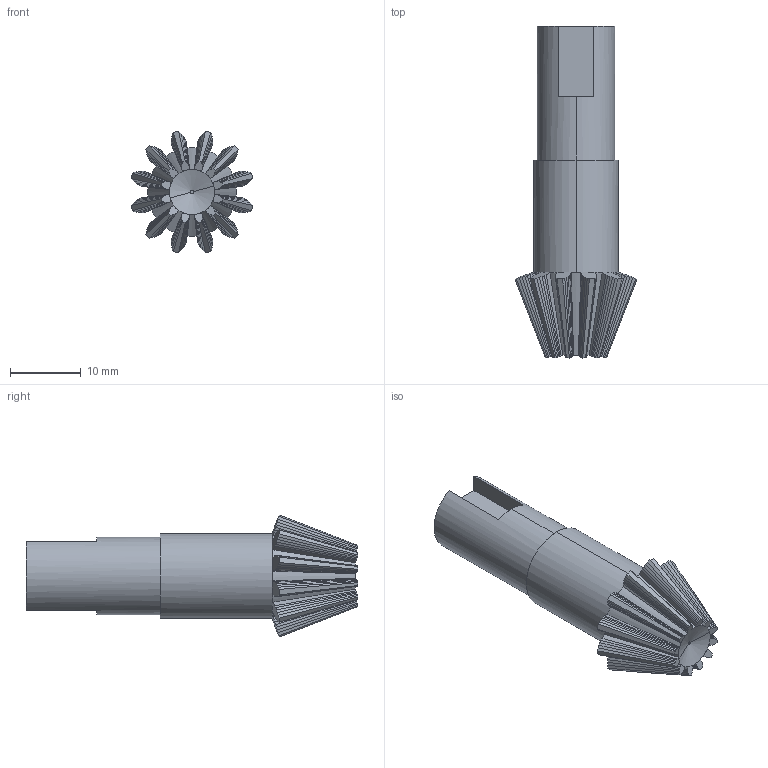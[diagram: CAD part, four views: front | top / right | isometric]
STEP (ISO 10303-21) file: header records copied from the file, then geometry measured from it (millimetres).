
FILE_DESCRIPTION (( 'STEP AP203' ), '1' );
FILE_NAME ('Smaller Bevel.STEP', '2026-01-17T21:10:55', ( '' ), ( '' ), 'SwSTEP 2.0', 'SolidWorks 2026', '' );
FILE_SCHEMA (( 'CONFIG_CONTROL_DESIGN' ));
Length unit declared in the file: millimetre
Products named in the file (1): Smaller Bevel
Bounding box: 17.28 x 47.04 x 17.28 mm (x, y, z)
Volume: 4552.4 mm3; surface area: 2456.2 mm2
Topology: 1 solids, 1 shells, 235 faces, 668 edges, 436 vertices
Faces by surface type: plane 215, cone 16, cylinder 4
Entity records: 7697 total; most frequent: CARTESIAN_POINT 1700, ORIENTED_EDGE 1336, DIRECTION 1084, EDGE_CURVE 668, VECTOR 532, LINE 532, VERTEX_POINT 436, AXIS2_PLACEMENT_3D 276
